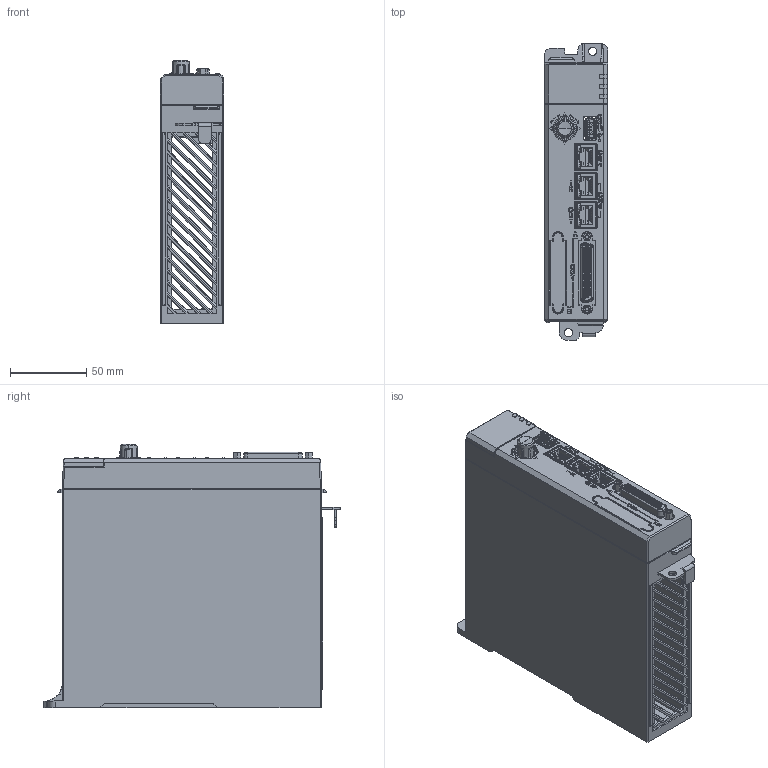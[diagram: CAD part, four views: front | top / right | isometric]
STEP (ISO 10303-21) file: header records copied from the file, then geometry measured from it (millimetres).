
FILE_DESCRIPTION((''),'2;1');
FILE_NAME('ASD-W3-CM04E-S','2022-12-19T14:02:03',('BILL.CHANG'),(''),'CREO PARAMETRIC BY PTC INC, 2018400','CREO PARAMETRIC BY PTC INC, 2018400','');
FILE_SCHEMA(());
Products named in the file (1): ASD-W3-CM04E-S
Bounding box: 42 x 195 x 172.9 mm (x, y, z)
Volume: 235183 mm3; surface area: 242501.9 mm2
Topology: 1 solids, 2 shells, 7735 faces, 21651 edges, 14000 vertices
Faces by surface type: plane 6029, cylinder 1221, cone 259, torus 100, bspline 73, extrusion 47, sphere 6
Entity records: 259032 total; most frequent: CARTESIAN_POINT 60280, ORIENTED_EDGE 43288, DIRECTION 37820, EDGE_CURVE 21644, VECTOR 17842, LINE 17795, VERTEX_POINT 14000, AXIS2_PLACEMENT_3D 9989
